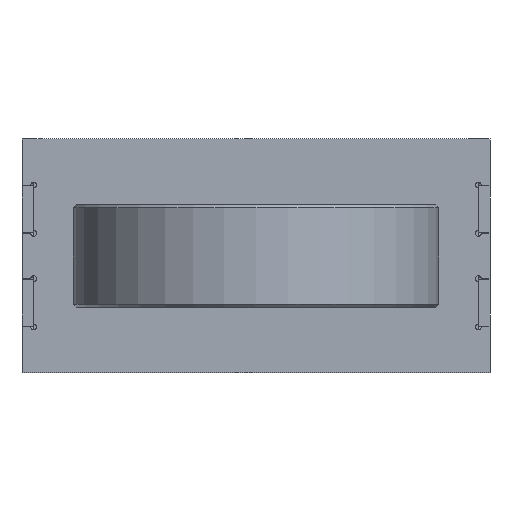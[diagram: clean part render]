
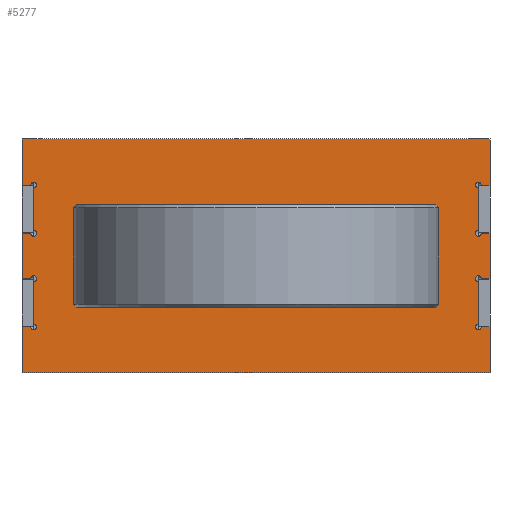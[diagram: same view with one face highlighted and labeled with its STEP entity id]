
A CAD part, front view. The second image highlights one B-rep face of the part: STEP entity #5277.
In plain terms, the highlighted planar face has unit normal (0, -1, 0) as drawn and (0, 0, -1) by its records, which use the part's own axes.
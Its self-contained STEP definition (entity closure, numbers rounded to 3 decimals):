
#347=LINE('',#8787,#758);
#350=LINE('',#8792,#761);
#352=LINE('',#8796,#763);
#355=LINE('',#8801,#766);
#357=LINE('',#8805,#768);
#360=LINE('',#8811,#771);
#363=LINE('',#8817,#774);
#364=LINE('',#8819,#775);
#365=LINE('',#8821,#776);
#366=LINE('',#8822,#777);
#367=LINE('',#8823,#778);
#368=LINE('',#8825,#779);
#369=LINE('',#8826,#780);
#370=LINE('',#8827,#781);
#371=LINE('',#8829,#782);
#372=LINE('',#8831,#783);
#373=LINE('',#8833,#784);
#374=LINE('',#8834,#785);
#375=LINE('',#8836,#786);
#376=LINE('',#8837,#787);
#758=VECTOR('',#6608,3.);
#761=VECTOR('',#6613,14.5);
#763=VECTOR('',#6617,3.);
#766=VECTOR('',#6622,14.5);
#768=VECTOR('',#6626,3.);
#771=VECTOR('',#6631,3.);
#774=VECTOR('',#6636,3.);
#775=VECTOR('',#6637,15.75);
#776=VECTOR('',#6638,160.);
#777=VECTOR('',#6639,15.75);
#778=VECTOR('',#6640,14.5);
#779=VECTOR('',#6641,3.);
#780=VECTOR('',#6642,15.5);
#781=VECTOR('',#6643,14.5);
#782=VECTOR('',#6644,3.);
#783=VECTOR('',#6645,15.75);
#784=VECTOR('',#6646,160.);
#785=VECTOR('',#6647,15.75);
#786=VECTOR('',#6648,3.);
#787=VECTOR('',#6649,15.5);
#1344=FACE_BOUND('',#1977,.T.);
#1345=FACE_BOUND('',#1978,.T.);
#1346=FACE_BOUND('',#1979,.T.);
#1575=FACE_OUTER_BOUND('',#1976,.T.);
#1976=EDGE_LOOP('',(#4248,#4249,#4250,#4251,#4252,#4253,#4254,#4255,#4256,
#4257,#4258,#4259,#4260,#4261,#4262,#4263,#4264,#4265,#4266,#4267,#4268,
#4269,#4270,#4271,#4272,#4273,#4274,#4275));
#1977=EDGE_LOOP('',(#4276));
#1978=EDGE_LOOP('',(#4277));
#1979=EDGE_LOOP('',(#4278));
#2221=CIRCLE('',#5643,5.5);
#2223=CIRCLE('',#5646,5.5);
#2224=CIRCLE('',#5648,17.5);
#2227=CIRCLE('',#5652,1.);
#2229=CIRCLE('',#5655,1.);
#2231=CIRCLE('',#5658,1.);
#2233=CIRCLE('',#5661,1.);
#2235=CIRCLE('',#5664,1.);
#2237=CIRCLE('',#5667,1.);
#2239=CIRCLE('',#5670,1.);
#2241=CIRCLE('',#5673,1.);
#2566=VERTEX_POINT('',#8701);
#2568=VERTEX_POINT('',#8706);
#2569=VERTEX_POINT('',#8709);
#2572=VERTEX_POINT('',#8715);
#2574=VERTEX_POINT('',#8719);
#2576=VERTEX_POINT('',#8724);
#2578=VERTEX_POINT('',#8728);
#2580=VERTEX_POINT('',#8733);
#2582=VERTEX_POINT('',#8737);
#2584=VERTEX_POINT('',#8742);
#2586=VERTEX_POINT('',#8746);
#2588=VERTEX_POINT('',#8751);
#2590=VERTEX_POINT('',#8755);
#2592=VERTEX_POINT('',#8760);
#2594=VERTEX_POINT('',#8764);
#2596=VERTEX_POINT('',#8769);
#2598=VERTEX_POINT('',#8773);
#2600=VERTEX_POINT('',#8778);
#2602=VERTEX_POINT('',#8782);
#2603=VERTEX_POINT('',#8786);
#2605=VERTEX_POINT('',#8795);
#2607=VERTEX_POINT('',#8804);
#2609=VERTEX_POINT('',#8810);
#2611=VERTEX_POINT('',#8816);
#2612=VERTEX_POINT('',#8818);
#2613=VERTEX_POINT('',#8820);
#2614=VERTEX_POINT('',#8824);
#2615=VERTEX_POINT('',#8828);
#2616=VERTEX_POINT('',#8830);
#2617=VERTEX_POINT('',#8832);
#2618=VERTEX_POINT('',#8835);
#3152=EDGE_CURVE('',#2566,#2566,#2221,.T.);
#3154=EDGE_CURVE('',#2568,#2568,#2223,.T.);
#3155=EDGE_CURVE('',#2569,#2569,#2224,.T.);
#3160=EDGE_CURVE('',#2572,#2574,#2227,.T.);
#3164=EDGE_CURVE('',#2576,#2578,#2229,.T.);
#3168=EDGE_CURVE('',#2580,#2582,#2231,.T.);
#3172=EDGE_CURVE('',#2584,#2586,#2233,.T.);
#3176=EDGE_CURVE('',#2588,#2590,#2235,.T.);
#3180=EDGE_CURVE('',#2592,#2594,#2237,.T.);
#3184=EDGE_CURVE('',#2596,#2598,#2239,.T.);
#3188=EDGE_CURVE('',#2600,#2602,#2241,.T.);
#3189=EDGE_CURVE('',#2603,#2576,#347,.T.);
#3192=EDGE_CURVE('',#2578,#2572,#350,.T.);
#3194=EDGE_CURVE('',#2605,#2584,#352,.T.);
#3197=EDGE_CURVE('',#2586,#2580,#355,.T.);
#3199=EDGE_CURVE('',#2607,#2588,#357,.T.);
#3202=EDGE_CURVE('',#2609,#2596,#360,.T.);
#3205=EDGE_CURVE('',#2574,#2611,#363,.T.);
#3206=EDGE_CURVE('',#2611,#2612,#364,.T.);
#3207=EDGE_CURVE('',#2612,#2613,#365,.T.);
#3208=EDGE_CURVE('',#2613,#2607,#366,.T.);
#3209=EDGE_CURVE('',#2590,#2592,#367,.T.);
#3210=EDGE_CURVE('',#2594,#2614,#368,.T.);
#3211=EDGE_CURVE('',#2614,#2609,#369,.T.);
#3212=EDGE_CURVE('',#2598,#2600,#370,.T.);
#3213=EDGE_CURVE('',#2602,#2615,#371,.T.);
#3214=EDGE_CURVE('',#2615,#2616,#372,.T.);
#3215=EDGE_CURVE('',#2616,#2617,#373,.T.);
#3216=EDGE_CURVE('',#2617,#2605,#374,.T.);
#3217=EDGE_CURVE('',#2582,#2618,#375,.T.);
#3218=EDGE_CURVE('',#2618,#2603,#376,.T.);
#4248=ORIENTED_EDGE('',*,*,#3160,.T.);
#4249=ORIENTED_EDGE('',*,*,#3205,.T.);
#4250=ORIENTED_EDGE('',*,*,#3206,.T.);
#4251=ORIENTED_EDGE('',*,*,#3207,.T.);
#4252=ORIENTED_EDGE('',*,*,#3208,.T.);
#4253=ORIENTED_EDGE('',*,*,#3199,.T.);
#4254=ORIENTED_EDGE('',*,*,#3176,.T.);
#4255=ORIENTED_EDGE('',*,*,#3209,.T.);
#4256=ORIENTED_EDGE('',*,*,#3180,.T.);
#4257=ORIENTED_EDGE('',*,*,#3210,.T.);
#4258=ORIENTED_EDGE('',*,*,#3211,.T.);
#4259=ORIENTED_EDGE('',*,*,#3202,.T.);
#4260=ORIENTED_EDGE('',*,*,#3184,.T.);
#4261=ORIENTED_EDGE('',*,*,#3212,.T.);
#4262=ORIENTED_EDGE('',*,*,#3188,.T.);
#4263=ORIENTED_EDGE('',*,*,#3213,.T.);
#4264=ORIENTED_EDGE('',*,*,#3214,.T.);
#4265=ORIENTED_EDGE('',*,*,#3215,.T.);
#4266=ORIENTED_EDGE('',*,*,#3216,.T.);
#4267=ORIENTED_EDGE('',*,*,#3194,.T.);
#4268=ORIENTED_EDGE('',*,*,#3172,.T.);
#4269=ORIENTED_EDGE('',*,*,#3197,.T.);
#4270=ORIENTED_EDGE('',*,*,#3168,.T.);
#4271=ORIENTED_EDGE('',*,*,#3217,.T.);
#4272=ORIENTED_EDGE('',*,*,#3218,.T.);
#4273=ORIENTED_EDGE('',*,*,#3189,.T.);
#4274=ORIENTED_EDGE('',*,*,#3164,.T.);
#4275=ORIENTED_EDGE('',*,*,#3192,.T.);
#4276=ORIENTED_EDGE('',*,*,#3152,.T.);
#4277=ORIENTED_EDGE('',*,*,#3154,.T.);
#4278=ORIENTED_EDGE('',*,*,#3155,.T.);
#4996=PLANE('',#5680);
#5277=ADVANCED_FACE('',(#1575,#1344,#1345,#1346),#4996,.F.);
#5643=AXIS2_PLACEMENT_3D('',#8702,#6528,#6529);
#5646=AXIS2_PLACEMENT_3D('',#8707,#6534,#6535);
#5648=AXIS2_PLACEMENT_3D('',#8710,#6538,#6539);
#5652=AXIS2_PLACEMENT_3D('',#8721,#6548,#6549);
#5655=AXIS2_PLACEMENT_3D('',#8730,#6556,#6557);
#5658=AXIS2_PLACEMENT_3D('',#8739,#6564,#6565);
#5661=AXIS2_PLACEMENT_3D('',#8748,#6572,#6573);
#5664=AXIS2_PLACEMENT_3D('',#8757,#6580,#6581);
#5667=AXIS2_PLACEMENT_3D('',#8766,#6588,#6589);
#5670=AXIS2_PLACEMENT_3D('',#8775,#6596,#6597);
#5673=AXIS2_PLACEMENT_3D('',#8784,#6604,#6605);
#5680=AXIS2_PLACEMENT_3D('',#8815,#6634,#6635);
#6528=DIRECTION('center_axis',(0.,0.,1.));
#6529=DIRECTION('ref_axis',(-1.,0.,0.));
#6534=DIRECTION('center_axis',(0.,0.,1.));
#6535=DIRECTION('ref_axis',(-1.,0.,0.));
#6538=DIRECTION('center_axis',(0.,0.,1.));
#6539=DIRECTION('ref_axis',(1.,0.,0.));
#6548=DIRECTION('center_axis',(0.,0.,1.));
#6549=DIRECTION('ref_axis',(1.,0.,0.));
#6556=DIRECTION('center_axis',(0.,0.,1.));
#6557=DIRECTION('ref_axis',(1.,0.,0.));
#6564=DIRECTION('center_axis',(0.,0.,1.));
#6565=DIRECTION('ref_axis',(1.,0.,0.));
#6572=DIRECTION('center_axis',(0.,0.,1.));
#6573=DIRECTION('ref_axis',(1.,0.,0.));
#6580=DIRECTION('center_axis',(0.,0.,1.));
#6581=DIRECTION('ref_axis',(1.,0.,0.));
#6588=DIRECTION('center_axis',(0.,0.,1.));
#6589=DIRECTION('ref_axis',(1.,0.,0.));
#6596=DIRECTION('center_axis',(0.,0.,1.));
#6597=DIRECTION('ref_axis',(1.,0.,0.));
#6604=DIRECTION('center_axis',(0.,0.,1.));
#6605=DIRECTION('ref_axis',(1.,0.,0.));
#6608=DIRECTION('',(-1.,0.,0.));
#6613=DIRECTION('',(0.,-1.,0.));
#6617=DIRECTION('',(-1.,0.,0.));
#6622=DIRECTION('',(0.,-1.,0.));
#6626=DIRECTION('',(1.,0.,0.));
#6631=DIRECTION('',(1.,0.,0.));
#6634=DIRECTION('center_axis',(0.,0.,1.));
#6635=DIRECTION('ref_axis',(1.,0.,0.));
#6636=DIRECTION('',(1.,0.,0.));
#6637=DIRECTION('',(0.,-1.,0.));
#6638=DIRECTION('',(-1.,0.,0.));
#6639=DIRECTION('',(0.,1.,0.));
#6640=DIRECTION('',(0.,1.,0.));
#6641=DIRECTION('',(-1.,0.,0.));
#6642=DIRECTION('',(0.,1.,0.));
#6643=DIRECTION('',(0.,1.,0.));
#6644=DIRECTION('',(-1.,0.,0.));
#6645=DIRECTION('',(0.,1.,0.));
#6646=DIRECTION('',(1.,0.,0.));
#6647=DIRECTION('',(0.,-1.,0.));
#6648=DIRECTION('',(1.,0.,0.));
#6649=DIRECTION('',(0.,-1.,0.));
#8701=CARTESIAN_POINT('',(-34.5,0.,0.));
#8702=CARTESIAN_POINT('Origin',(-29.,0.,0.));
#8706=CARTESIAN_POINT('',(23.5,0.,0.));
#8707=CARTESIAN_POINT('Origin',(29.,0.,0.));
#8709=CARTESIAN_POINT('',(-17.5,0.,0.));
#8710=CARTESIAN_POINT('Origin',(0.,0.,0.));
#8715=CARTESIAN_POINT('',(76.,-23.25,0.));
#8719=CARTESIAN_POINT('',(77.,-24.25,0.));
#8721=CARTESIAN_POINT('Origin',(76.,-24.25,0.));
#8724=CARTESIAN_POINT('',(77.,-7.75,0.));
#8728=CARTESIAN_POINT('',(76.,-8.75,0.));
#8730=CARTESIAN_POINT('Origin',(76.,-7.75,0.));
#8733=CARTESIAN_POINT('',(76.,8.75,0.));
#8737=CARTESIAN_POINT('',(77.,7.75,0.));
#8739=CARTESIAN_POINT('Origin',(76.,7.75,0.));
#8742=CARTESIAN_POINT('',(77.,24.25,0.));
#8746=CARTESIAN_POINT('',(76.,23.25,0.));
#8748=CARTESIAN_POINT('Origin',(76.,24.25,0.));
#8751=CARTESIAN_POINT('',(-77.,-24.25,0.));
#8755=CARTESIAN_POINT('',(-76.,-23.25,0.));
#8757=CARTESIAN_POINT('Origin',(-76.,-24.25,0.));
#8760=CARTESIAN_POINT('',(-76.,-8.75,0.));
#8764=CARTESIAN_POINT('',(-77.,-7.75,0.));
#8766=CARTESIAN_POINT('Origin',(-76.,-7.75,0.));
#8769=CARTESIAN_POINT('',(-77.,7.75,0.));
#8773=CARTESIAN_POINT('',(-76.,8.75,0.));
#8775=CARTESIAN_POINT('Origin',(-76.,7.75,0.));
#8778=CARTESIAN_POINT('',(-76.,23.25,0.));
#8782=CARTESIAN_POINT('',(-77.,24.25,0.));
#8784=CARTESIAN_POINT('Origin',(-76.,24.25,0.));
#8786=CARTESIAN_POINT('',(80.,-7.75,0.));
#8787=CARTESIAN_POINT('',(80.,-7.75,0.));
#8792=CARTESIAN_POINT('',(76.,-7.75,0.));
#8795=CARTESIAN_POINT('',(80.,24.25,0.));
#8796=CARTESIAN_POINT('',(80.,24.25,0.));
#8801=CARTESIAN_POINT('',(76.,24.25,0.));
#8804=CARTESIAN_POINT('',(-80.,-24.25,0.));
#8805=CARTESIAN_POINT('',(-80.,-24.25,0.));
#8810=CARTESIAN_POINT('',(-80.,7.75,0.));
#8811=CARTESIAN_POINT('',(-80.,7.75,0.));
#8815=CARTESIAN_POINT('Origin',(0.,0.,
0.));
#8816=CARTESIAN_POINT('',(80.,-24.25,0.));
#8817=CARTESIAN_POINT('',(76.,-24.25,0.));
#8818=CARTESIAN_POINT('',(80.,-40.,0.));
#8819=CARTESIAN_POINT('',(80.,-24.25,0.));
#8820=CARTESIAN_POINT('',(-80.,-40.,0.));
#8821=CARTESIAN_POINT('',(80.,-40.,0.));
#8822=CARTESIAN_POINT('',(-80.,-40.,0.));
#8823=CARTESIAN_POINT('',(-76.,-24.25,0.));
#8824=CARTESIAN_POINT('',(-80.,-7.75,0.));
#8825=CARTESIAN_POINT('',(-76.,-7.75,0.));
#8826=CARTESIAN_POINT('',(-80.,-7.75,0.));
#8827=CARTESIAN_POINT('',(-76.,7.75,0.));
#8828=CARTESIAN_POINT('',(-80.,24.25,0.));
#8829=CARTESIAN_POINT('',(-76.,24.25,0.));
#8830=CARTESIAN_POINT('',(-80.,40.,0.));
#8831=CARTESIAN_POINT('',(-80.,24.25,0.));
#8832=CARTESIAN_POINT('',(80.,40.,0.));
#8833=CARTESIAN_POINT('',(-80.,40.,0.));
#8834=CARTESIAN_POINT('',(80.,40.,0.));
#8835=CARTESIAN_POINT('',(80.,7.75,0.));
#8836=CARTESIAN_POINT('',(76.,7.75,0.));
#8837=CARTESIAN_POINT('',(80.,7.75,0.));
